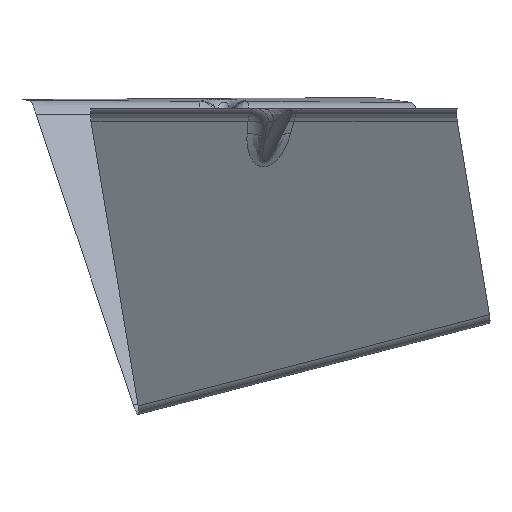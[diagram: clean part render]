
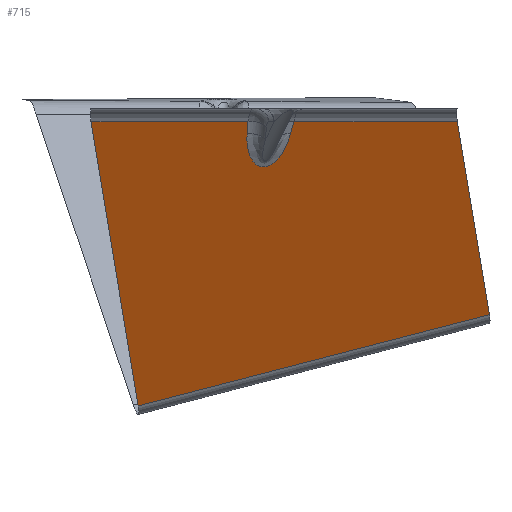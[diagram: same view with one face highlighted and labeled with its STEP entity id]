
A CAD part, left-side view. The second image highlights one B-rep face of the part: STEP entity #715.
In plain terms, the highlighted planar face has unit normal (-0.83, -0.249, -0.5).
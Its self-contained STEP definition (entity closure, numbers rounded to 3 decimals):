
#254=CARTESIAN_POINT('Vertex',(-86.805,7.19,-1.35)) ;
#277=CARTESIAN_POINT('Line Origine',(-69.411,9.233,-31.223)) ;
#281=CARTESIAN_POINT('Vertex',(-84.866,7.418,-4.681)) ;
#597=CARTESIAN_POINT('Control Point',(-81.3,-4.467,-4.681)) ;
#598=CARTESIAN_POINT('Control Point',(-81.094,-4.364,-5.074)) ;
#599=CARTESIAN_POINT('Control Point',(-80.892,-4.25,-5.466)) ;
#600=CARTESIAN_POINT('Control Point',(-80.693,-4.126,-5.858)) ;
#601=CARTESIAN_POINT('Control Point',(-80.307,-3.86,-6.63)) ;
#602=CARTESIAN_POINT('Control Point',(-79.938,-3.55,-7.397)) ;
#603=CARTESIAN_POINT('Control Point',(-79.76,-3.386,-7.774)) ;
#604=CARTESIAN_POINT('Control Point',(-79.429,-3.05,-8.491)) ;
#605=CARTESIAN_POINT('Control Point',(-79.117,-2.665,-9.199)) ;
#606=CARTESIAN_POINT('Control Point',(-78.973,-2.47,-9.536)) ;
#607=CARTESIAN_POINT('Control Point',(-78.715,-2.081,-10.156)) ;
#608=CARTESIAN_POINT('Control Point',(-78.481,-1.642,-10.763)) ;
#609=CARTESIAN_POINT('Control Point',(-78.379,-1.427,-11.04)) ;
#610=CARTESIAN_POINT('Control Point',(-78.204,-1.009,-11.538)) ;
#611=CARTESIAN_POINT('Control Point',(-78.058,-0.54,-12.014)) ;
#612=CARTESIAN_POINT('Control Point',(-77.999,-0.316,-12.222)) ;
#613=CARTESIAN_POINT('Control Point',(-77.889,0.198,-12.661)) ;
#614=CARTESIAN_POINT('Control Point',(-77.829,0.786,-13.053)) ;
#615=CARTESIAN_POINT('Control Point',(-77.815,1.132,-13.249)) ;
#616=CARTESIAN_POINT('Control Point',(-77.833,1.664,-13.484)) ;
#617=CARTESIAN_POINT('Control Point',(-77.92,2.241,-13.627)) ;
#618=CARTESIAN_POINT('Control Point',(-77.953,2.418,-13.66)) ;
#619=CARTESIAN_POINT('Control Point',(-78.029,2.754,-13.701)) ;
#620=CARTESIAN_POINT('Control Point',(-78.129,3.088,-13.701)) ;
#621=CARTESIAN_POINT('Control Point',(-78.181,3.242,-13.692)) ;
#622=CARTESIAN_POINT('Control Point',(-78.289,3.531,-13.658)) ;
#623=CARTESIAN_POINT('Control Point',(-78.41,3.805,-13.593)) ;
#624=CARTESIAN_POINT('Control Point',(-78.47,3.932,-13.556)) ;
#625=CARTESIAN_POINT('Control Point',(-78.757,4.492,-13.36)) ;
#626=CARTESIAN_POINT('Control Point',(-79.077,4.958,-13.06)) ;
#627=CARTESIAN_POINT('Control Point',(-79.333,5.27,-12.79)) ;
#628=CARTESIAN_POINT('Control Point',(-79.762,5.724,-12.304)) ;
#629=CARTESIAN_POINT('Control Point',(-80.189,6.083,-11.775)) ;
#630=CARTESIAN_POINT('Control Point',(-80.362,6.216,-11.554)) ;
#631=CARTESIAN_POINT('Control Point',(-80.755,6.493,-11.04)) ;
#632=CARTESIAN_POINT('Control Point',(-81.142,6.715,-10.508)) ;
#633=CARTESIAN_POINT('Control Point',(-81.357,6.825,-10.206)) ;
#634=CARTESIAN_POINT('Control Point',(-81.836,7.042,-9.52)) ;
#635=CARTESIAN_POINT('Control Point',(-82.305,7.2,-8.821)) ;
#636=CARTESIAN_POINT('Control Point',(-82.563,7.271,-8.428)) ;
#637=CARTESIAN_POINT('Control Point',(-83.194,7.411,-7.451)) ;
#638=CARTESIAN_POINT('Control Point',(-83.807,7.468,-6.462)) ;
#639=CARTESIAN_POINT('Control Point',(-84.166,7.476,-5.87)) ;
#640=CARTESIAN_POINT('Control Point',(-84.519,7.459,-5.276)) ;
#641=CARTESIAN_POINT('Control Point',(-84.866,7.418,-4.681)) ;
#642=CARTESIAN_POINT('Vertex',(-81.3,-4.467,-4.681)) ;
#660=CARTESIAN_POINT('Axis2P3D Location',(-38.782,-11.634,-71.652)) ;
#665=CARTESIAN_POINT('Line Origine',(-82.172,-4.906,-3.015)) ;
#669=CARTESIAN_POINT('Vertex',(-83.044,-5.345,-1.35)) ;
#672=CARTESIAN_POINT('Line Origine',(-93.231,28.609,-1.35)) ;
#676=CARTESIAN_POINT('Vertex',(-99.656,50.029,-1.35)) ;
#679=CARTESIAN_POINT('Line Origine',(-74.343,43.593,-40.141)) ;
#683=CARTESIAN_POINT('Vertex',(-49.03,37.158,-78.933)) ;
#686=CARTESIAN_POINT('Line Origine',(-42.15,-10.778,-66.49)) ;
#690=CARTESIAN_POINT('Vertex',(-35.269,-58.714,-54.048)) ;
#693=CARTESIAN_POINT('Line Origine',(-52.463,-54.343,-27.699)) ;
#697=CARTESIAN_POINT('Vertex',(-69.656,-49.971,-1.35)) ;
#700=CARTESIAN_POINT('Line Origine',(-76.35,-27.658,-1.35)) ;
#278=DIRECTION('Vector Direction',(0.502,0.059,-0.863)) ;
#661=DIRECTION('Axis2P3D Direction',(0.83,0.249,0.5)) ;
#662=DIRECTION('Axis2P3D XDirection',(0.541,-0.138,-0.83)) ;
#666=DIRECTION('Vector Direction',(-0.452,-0.227,0.863)) ;
#673=DIRECTION('Vector Direction',(0.287,-0.958,0.)) ;
#680=DIRECTION('Vector Direction',(0.541,-0.138,-0.83)) ;
#687=DIRECTION('Vector Direction',(0.138,-0.959,0.249)) ;
#694=DIRECTION('Vector Direction',(-0.541,0.138,0.83)) ;
#701=DIRECTION('Vector Direction',(0.287,-0.958,0.)) ;
#663=AXIS2_PLACEMENT_3D('Plane Axis2P3D',#660,#661,#662) ;
#706=ORIENTED_EDGE('',*,*,#671,.T.) ;
#707=ORIENTED_EDGE('',*,*,#644,.T.) ;
#708=ORIENTED_EDGE('',*,*,#283,.T.) ;
#709=ORIENTED_EDGE('',*,*,#678,.F.) ;
#710=ORIENTED_EDGE('',*,*,#685,.T.) ;
#711=ORIENTED_EDGE('',*,*,#692,.T.) ;
#712=ORIENTED_EDGE('',*,*,#699,.T.) ;
#713=ORIENTED_EDGE('',*,*,#704,.F.) ;
#279=VECTOR('Line Direction',#278,1.) ;
#667=VECTOR('Line Direction',#666,1.) ;
#674=VECTOR('Line Direction',#673,1.) ;
#681=VECTOR('Line Direction',#680,1.) ;
#688=VECTOR('Line Direction',#687,1.) ;
#695=VECTOR('Line Direction',#694,1.) ;
#702=VECTOR('Line Direction',#701,1.) ;
#715=ADVANCED_FACE('Extract.1',(#714),#664,.F.) ;
#596=B_SPLINE_CURVE_WITH_KNOTS('',5,(#597,#598,#599,#600,#601,#602,#603,#604,#605,#606,#607,#608,#609,#610,#611,#612,#613,#614,#615,#616,#617,#618,#619,#620,#621,#622,#623,#624,#625,#626,#627,#628,#629,#630,#631,#632,#633,#634,#635,#636,#637,#638,#639,#640,#641),.UNSPECIFIED.,.F.,.U.,(6,3,3,3,3,3,3,3,3,3,3,3,3,3,6),(22.204,25.24,28.188,30.879,33.208,35.116,37.354,38.325,39.177,39.958,42.753,44.695,47.176,50.277,54.872),.UNSPECIFIED.) ;
#283=EDGE_CURVE('',#282,#255,#280,.F.) ;
#644=EDGE_CURVE('',#643,#282,#596,.T.) ;
#671=EDGE_CURVE('',#670,#643,#668,.F.) ;
#678=EDGE_CURVE('',#677,#255,#675,.T.) ;
#685=EDGE_CURVE('',#677,#684,#682,.T.) ;
#692=EDGE_CURVE('',#684,#691,#689,.T.) ;
#699=EDGE_CURVE('',#691,#698,#696,.T.) ;
#704=EDGE_CURVE('',#670,#698,#703,.T.) ;
#705=EDGE_LOOP('',(#706,#707,#708,#709,#710,#711,#712,#713)) ;
#714=FACE_OUTER_BOUND('',#705,.T.) ;
#280=LINE('Line',#277,#279) ;
#668=LINE('Line',#665,#667) ;
#675=LINE('Line',#672,#674) ;
#682=LINE('Line',#679,#681) ;
#689=LINE('Line',#686,#688) ;
#696=LINE('Line',#693,#695) ;
#703=LINE('Line',#700,#702) ;
#664=PLANE('',#663) ;
#255=VERTEX_POINT('',#254) ;
#282=VERTEX_POINT('',#281) ;
#643=VERTEX_POINT('',#642) ;
#670=VERTEX_POINT('',#669) ;
#677=VERTEX_POINT('',#676) ;
#684=VERTEX_POINT('',#683) ;
#691=VERTEX_POINT('',#690) ;
#698=VERTEX_POINT('',#697) ;
